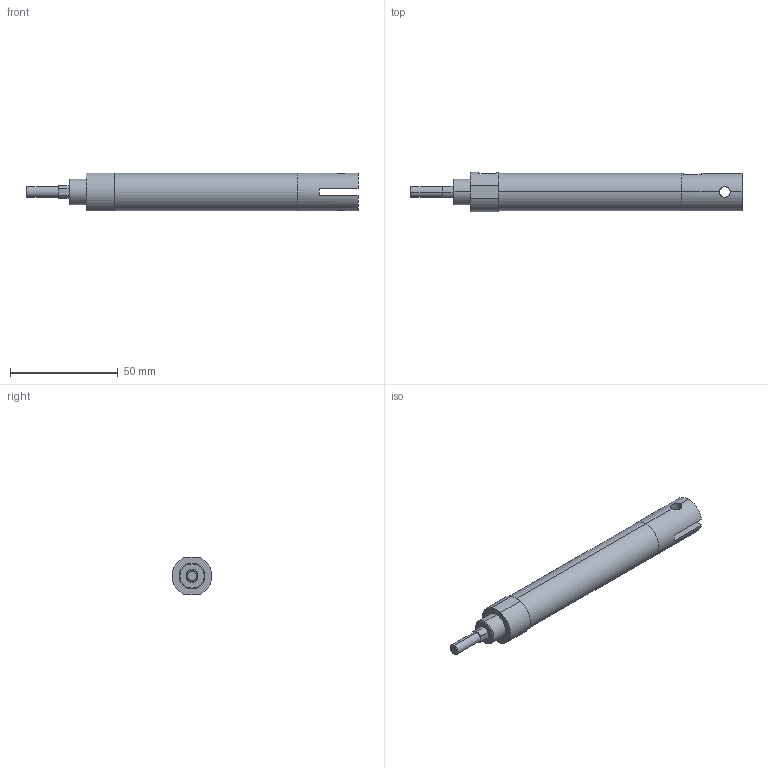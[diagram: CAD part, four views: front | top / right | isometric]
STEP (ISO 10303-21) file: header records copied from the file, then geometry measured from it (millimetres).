
FILE_DESCRIPTION (( 'STEP AP203' ), '1' );
FILE_NAME ('ZGU2-16-60-W.STEP', '2016-03-31T01:02:29', ( '' ), ( '' ), 'SwSTEP 2.0', 'SolidWorks 2014', '' );
FILE_SCHEMA (( 'CONFIG_CONTROL_DESIGN' ));
Length unit declared in the file: millimetre
Products named in the file (1): ZGU2-16-60-W
Bounding box: 154 x 18.46 x 17.6 mm (x, y, z)
Volume: 30152.6 mm3; surface area: 8953.3 mm2
Topology: 1 solids, 1 shells, 50 faces, 117 edges, 72 vertices
Faces by surface type: cylinder 21, plane 21, cone 8
Entity records: 1598 total; most frequent: CARTESIAN_POINT 358, DIRECTION 257, ORIENTED_EDGE 226, EDGE_CURVE 113, AXIS2_PLACEMENT_3D 99, VERTEX_POINT 72, EDGE_LOOP 61, VECTOR 59
